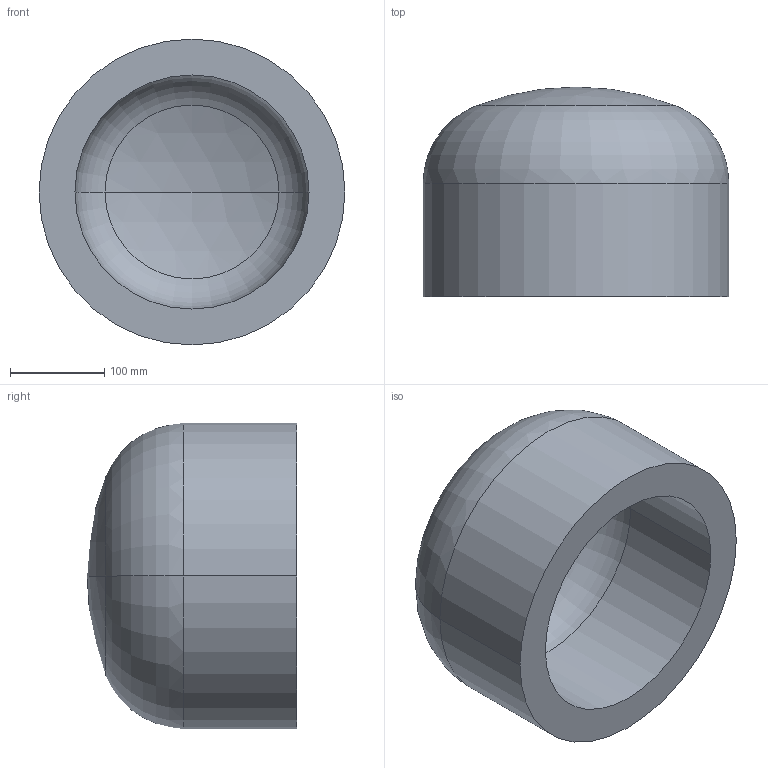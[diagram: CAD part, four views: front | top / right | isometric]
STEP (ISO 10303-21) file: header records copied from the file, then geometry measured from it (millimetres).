
FILE_DESCRIPTION (( 'STEP AP203' ), '1' );
FILE_NAME ('DIN 28013 Korbbogenform_-_Boden DIN 28013 - 323,9 x 120 - I - s=38.step', '2016-07-01T07:45:30', ( '' ), ( '' ), 'SwSTEP 2.0', 'SolidWorks 2013', '' );
FILE_SCHEMA (( 'CONFIG_CONTROL_DESIGN' ));
Length unit declared in the file: millimetre
Products named in the file (1): DIN 28013 Korbbogenform_-_Boden DIN 28013 - 323,9 x 120 - I - s=38
Bounding box: 323.9 x 221.88 x 323.9 mm (x, y, z)
Volume: 7855946.9 mm3; surface area: 450626.1 mm2
Topology: 1 solids, 1 shells, 13 faces, 24 edges, 14 vertices
Faces by surface type: torus 4, cylinder 4, sphere 4, plane 1
Entity records: 407 total; most frequent: DIRECTION 72, CARTESIAN_POINT 52, ORIENTED_EDGE 48, AXIS2_PLACEMENT_3D 34, EDGE_CURVE 24, CIRCLE 20, VERTEX_POINT 14, EDGE_LOOP 14
